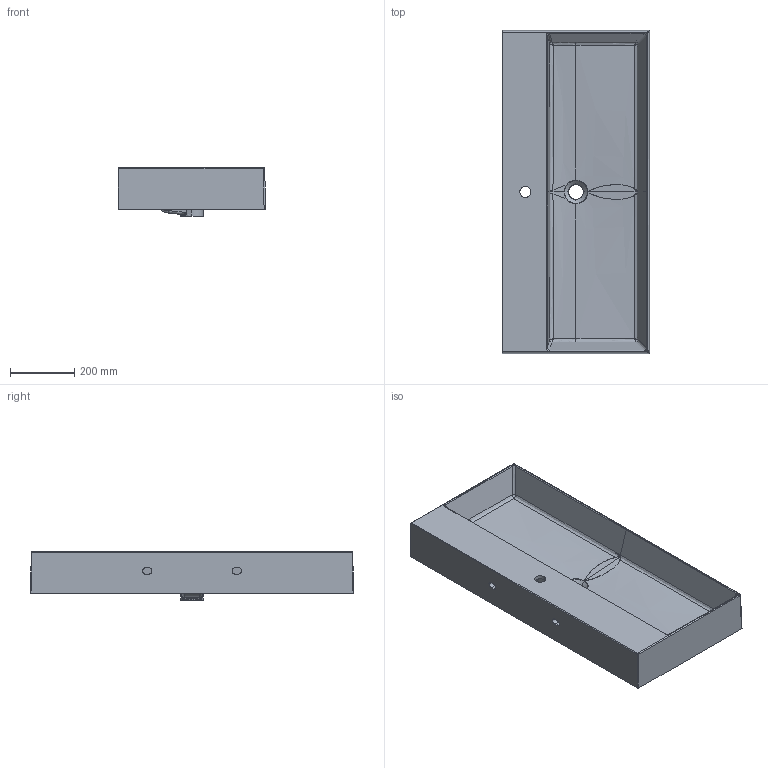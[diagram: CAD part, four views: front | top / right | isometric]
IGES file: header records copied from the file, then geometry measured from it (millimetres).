
Start section: START RECORD GO HERE.
Global section: file name: 8937_MEG Pro 101 x 46.igs; native system: DASSAULT SYSTEMES CATIA V5 R19 - www.3ds.com; preprocessor: CATIA Version 5 Release 19 SP 5 ; author: gioge; organization: LAPTOP-G94B6G74; date: 20200630.151313; units: millimetre
Bounding box: 460.4 x 1009.81 x 151.5 mm (x, y, z)
Surface area: 1872534.9 mm2 (no closed solid volume)
Topology: 0 solids, 0 shells, 622 faces, 2905 edges, 2884 vertices
Faces by surface type: bspline 323, revolution 239, plane 60
